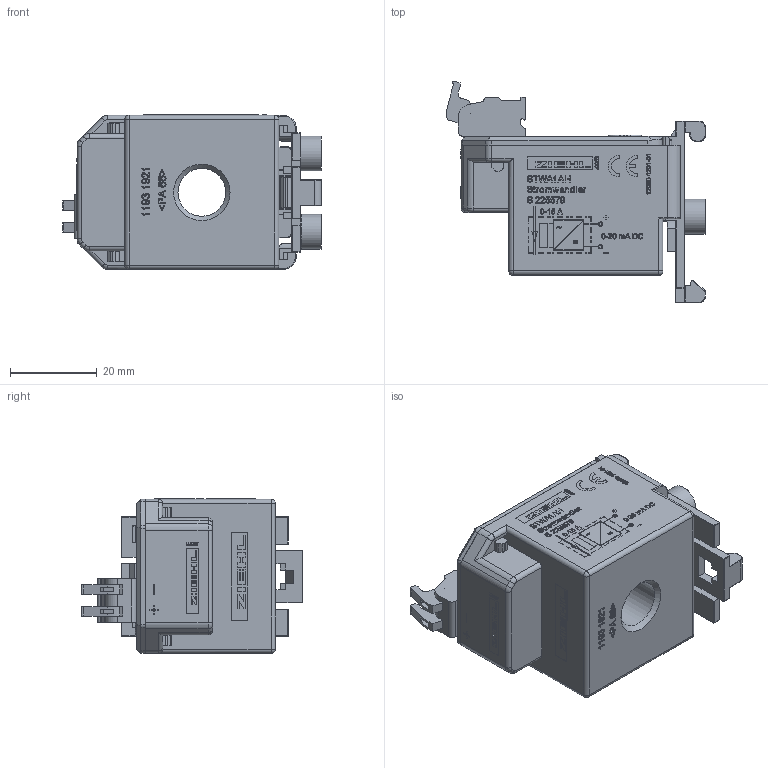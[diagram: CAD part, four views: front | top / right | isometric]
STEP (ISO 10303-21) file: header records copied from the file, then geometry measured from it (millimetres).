
FILE_DESCRIPTION (( 'STEP AP214' ), '1' );
FILE_NAME ('12080-1900-00_3D_STWA1AH.STEP', '2014-09-10T08:01:32', ( '' ), ( '' ), 'SwSTEP 2.0', 'SolidWorks 2014', '' );
FILE_SCHEMA (( 'AUTOMOTIVE_DESIGN' ));
Length unit declared in the file: millimetre
Products named in the file (8): H-Wandler_ +-_ 3D; 12080-1201-01 STWA1AH_3D; ASP045 2-polig; 31177102 Stiftleiste 2-polig; 1193 1980_3D_Halter; 1193 1970_3D_Deckel; H_3D_Unterteil mit Vergussmasse; 12080-1900-00_3D_STWA1AH
Assembly tree (7 placements, depth 2):
  12080-1900-00_3D_STWA1AH
    H_3D_Unterteil mit Vergussmasse
    1193 1970_3D_Deckel
    1193 1980_3D_Halter
    31177102 Stiftleiste 2-polig
    ASP045 2-polig
    12080-1201-01 STWA1AH_3D
    H-Wandler_ +-_ 3D
Bounding box: 59.64 x 50.98 x 35.67 mm (x, y, z)
Volume: 18200.2 mm3; surface area: 26158.4 mm2
Topology: 108 solids, 115 shells, 2049 faces, 5138 edges, 3323 vertices
Faces by surface type: plane 1414, bspline 289, cylinder 269, torus 48, sphere 24, cone 5
Full cylindrical faces by diameter (mm): 0.05 x1, 1.6 x4, 4.4 x2, 6.5 x1, 7.5 x1, 8 x2, 11 x2, 12 x1, 15 x1
Entity records: 72397 total; most frequent: CARTESIAN_POINT 23258, ORIENTED_EDGE 10114, DIRECTION 8464, EDGE_CURVE 5073, LINE 3900, VECTOR 3900, VERTEX_POINT 3312, AXIS2_PLACEMENT_3D 2282
